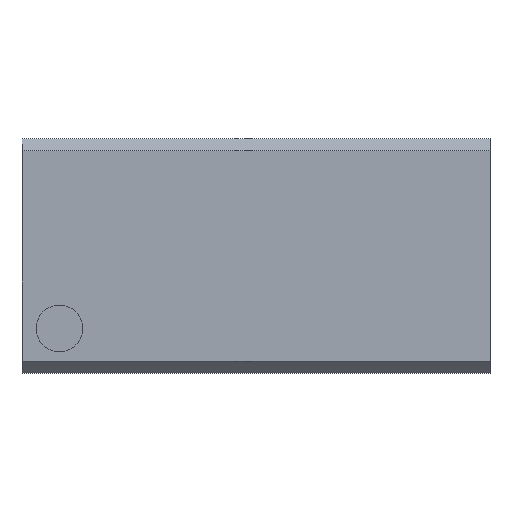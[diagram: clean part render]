
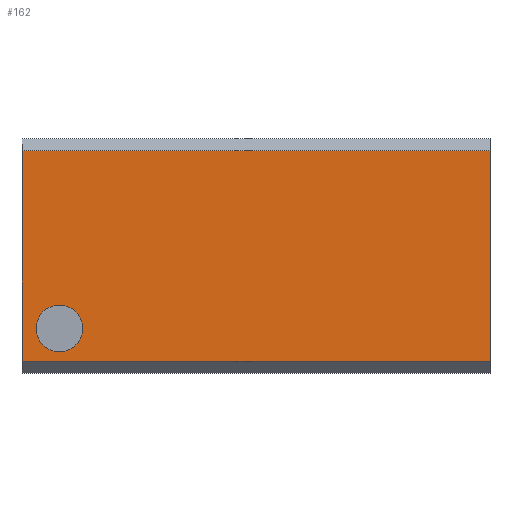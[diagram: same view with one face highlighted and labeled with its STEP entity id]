
A CAD part, top view. The second image highlights one B-rep face of the part: STEP entity #162.
In plain terms, the highlighted planar face has unit normal (0, 0, 1).
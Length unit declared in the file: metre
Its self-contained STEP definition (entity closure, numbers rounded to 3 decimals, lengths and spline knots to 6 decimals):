
#13=LINE('',#240,#31);
#16=LINE('',#246,#34);
#21=LINE('',#256,#39);
#22=LINE('',#258,#40);
#31=VECTOR('',#198,1.);
#34=VECTOR('',#203,1.);
#39=VECTOR('',#210,1.);
#40=VECTOR('',#211,1.);
#51=PLANE('',#179);
#70=ORIENTED_EDGE('',*,*,#100,.F.);
#71=ORIENTED_EDGE('',*,*,#108,.T.);
#72=ORIENTED_EDGE('',*,*,#109,.F.);
#73=ORIENTED_EDGE('',*,*,#103,.T.);
#74=ORIENTED_EDGE('',*,*,#98,.T.);
#98=EDGE_CURVE('',#118,#118,#132,.T.);
#100=EDGE_CURVE('',#120,#121,#13,.F.);
#103=EDGE_CURVE('',#123,#121,#16,.T.);
#108=EDGE_CURVE('',#120,#127,#21,.F.);
#109=EDGE_CURVE('',#123,#127,#22,.F.);
#118=VERTEX_POINT('',#234);
#120=VERTEX_POINT('',#239);
#121=VERTEX_POINT('',#241);
#123=VERTEX_POINT('',#247);
#127=VERTEX_POINT('',#257);
#132=CIRCLE('',#175,0.0005);
#138=EDGE_LOOP('',(#70,#71,#72,#73));
#139=EDGE_LOOP('',(#74));
#150=FACE_BOUND('',#138,.T.);
#151=FACE_BOUND('',#139,.T.);
#162=ADVANCED_FACE('',(#150,#151),#51,.T.);
#175=AXIS2_PLACEMENT_3D('',#233,#191,#192);
#179=AXIS2_PLACEMENT_3D('',#255,#208,#209);
#191=DIRECTION('',(0.,0.,-1.));
#192=DIRECTION('',(0.,1.,0.));
#198=DIRECTION('',(-1.,0.,0.));
#203=DIRECTION('',(0.,1.,0.));
#208=DIRECTION('',(0.,0.,1.));
#209=DIRECTION('',(1.,0.,0.));
#210=DIRECTION('',(0.,1.,0.));
#211=DIRECTION('',(1.,0.,0.));
#233=CARTESIAN_POINT('',(0.023148,-0.00155,-0.0269));
#234=CARTESIAN_POINT('',(0.022648,-0.00155,-0.0269));
#239=CARTESIAN_POINT('',(0.022348,0.00225,-0.0269));
#240=CARTESIAN_POINT('',(0.023923,0.00225,-0.0269));
#241=CARTESIAN_POINT('',(0.032348,0.00225,-0.0269));
#246=CARTESIAN_POINT('',(0.032348,0.,-0.0269));
#247=CARTESIAN_POINT('',(0.032348,-0.00225,-0.0269));
#255=CARTESIAN_POINT('',(0.015498,0.,-0.0269));
#256=CARTESIAN_POINT('',(0.022348,0.,-0.0269));
#257=CARTESIAN_POINT('',(0.022348,-0.00225,-0.0269));
#258=CARTESIAN_POINT('',(0.018923,-0.00225,-0.0269));
